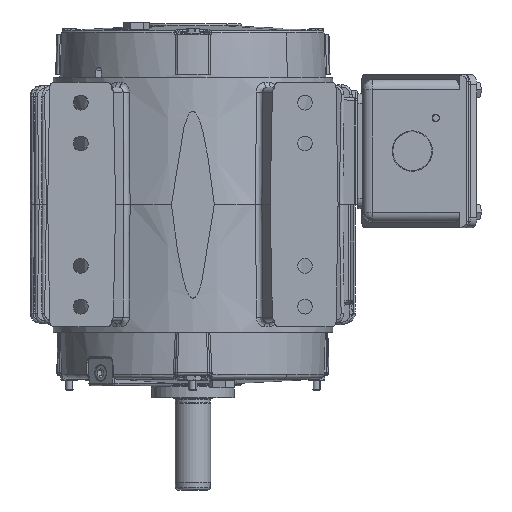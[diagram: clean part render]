
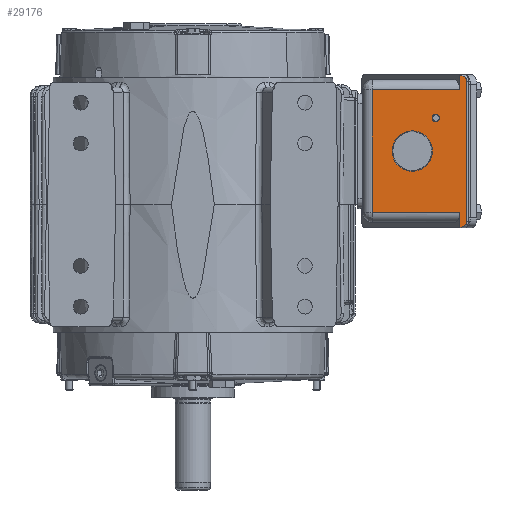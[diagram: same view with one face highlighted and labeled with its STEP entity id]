
A CAD part, front view. The second image highlights one B-rep face of the part: STEP entity #29176.
In plain terms, the highlighted planar face has unit normal (0, -1, 0).
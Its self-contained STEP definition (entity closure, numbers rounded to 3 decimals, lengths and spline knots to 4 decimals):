
#1833 = CARTESIAN_POINT ( 'NONE',  ( 6.709, -1.8539, 6.5513 ) ) ;
#3019 = CARTESIAN_POINT ( 'NONE',  ( 6.055, -1.8539, 9.1213 ) ) ;
#3601 = CARTESIAN_POINT ( 'NONE',  ( 4.4, -1.8539, 6.8113 ) ) ;
#8754 = EDGE_LOOP ( 'NONE', ( #88345, #76033 ) ) ;
#10025 = FACE_BOUND ( 'NONE', #8754, .T. ) ;
#10645 = VERTEX_POINT ( 'NONE', #101679 ) ;
#11913 = VERTEX_POINT ( 'NONE', #77544 ) ;
#13765 = DIRECTION ( 'NONE',  ( 1., 0., 0. ) ) ;
#14995 = VERTEX_POINT ( 'NONE', #38304 ) ;
#16199 = CARTESIAN_POINT ( 'NONE',  ( 6.709, -1.8539, 10.0613 ) ) ;
#17002 = CIRCLE ( 'NONE', #97792, 0.4944 ) ;
#17932 = CARTESIAN_POINT ( 'NONE',  ( 6.5446, -1.8539, 10.1752 ) ) ;
#19464 = ORIENTED_EDGE ( 'NONE', *, *, #32141, .T. ) ;
#21650 = VECTOR ( 'NONE', #85974, 39.3701 ) ;
#24812 = VERTEX_POINT ( 'NONE', #119693 ) ;
#25578 = CARTESIAN_POINT ( 'NONE',  ( 5.865, -1.8539, 9.1213 ) ) ;
#28285 = DIRECTION ( 'NONE',  ( -1., 0., 0. ) ) ;
#29176 = ADVANCED_FACE ( 'NONE', ( #10025, #84182, #41696 ), #65058, .F. ) ;
#30854 = DIRECTION ( 'NONE',  ( -1., 0., 0. ) ) ;
#32141 = EDGE_CURVE ( 'NONE', #24812, #51256, #117028, .T. ) ;
#32382 = EDGE_CURVE ( 'NONE', #107324, #38508, #74562, .T. ) ;
#33331 = EDGE_CURVE ( 'NONE', #51256, #64774, #95227, .T. ) ;
#33343 = DIRECTION ( 'NONE',  ( -1., 0., 0. ) ) ;
#33422 = VECTOR ( 'NONE', #30854, 39.3701 ) ;
#34147 = AXIS2_PLACEMENT_3D ( 'NONE', #73071, #62938, #33343 ) ;
#35850 = DIRECTION ( 'NONE',  ( 0., -1., 0. ) ) ;
#36212 = ORIENTED_EDGE ( 'NONE', *, *, #71486, .T. ) ;
#37072 = CARTESIAN_POINT ( 'NONE',  ( 5.96, -1.8539, 9.1213 ) ) ;
#38304 = CARTESIAN_POINT ( 'NONE',  ( 6.709, -1.8539, 10.0613 ) ) ;
#38508 = VERTEX_POINT ( 'NONE', #58116 ) ;
#39734 = CARTESIAN_POINT ( 'NONE',  ( 6.5446, -1.8539, 6.4374 ) ) ;
#41000 = DIRECTION ( 'NONE',  ( 0., 0., -1. ) ) ;
#41696 = FACE_OUTER_BOUND ( 'NONE', #41827, .T. ) ;
#41827 = EDGE_LOOP ( 'NONE', ( #106650, #66359, #19464, #55110, #52414, #36212, #49120, #100708 ) ) ;
#44102 = CARTESIAN_POINT ( 'NONE',  ( 6.5446, -1.8539, 6.4374 ) ) ;
#44269 = DIRECTION ( 'NONE',  ( 0., -1., 0. ) ) ;
#47145 = EDGE_CURVE ( 'NONE', #53506, #80600, #81697, .T. ) ;
#47650 = DIRECTION ( 'NONE',  ( 0., 0., 1. ) ) ;
#49120 = ORIENTED_EDGE ( 'NONE', *, *, #60382, .T. ) ;
#49808 = EDGE_CURVE ( 'NONE', #10645, #38508, #101800, .T. ) ;
#51256 = VERTEX_POINT ( 'NONE', #44102 ) ;
#52414 = ORIENTED_EDGE ( 'NONE', *, *, #106313, .T. ) ;
#52930 = AXIS2_PLACEMENT_3D ( 'NONE', #94967, #116577, #85310 ) ;
#53506 = VERTEX_POINT ( 'NONE', #3019 ) ;
#55110 = ORIENTED_EDGE ( 'NONE', *, *, #33331, .T. ) ;
#55578 = CARTESIAN_POINT ( 'NONE',  ( 6.5446, -1.8539, 6.5513 ) ) ;
#58050 = CARTESIAN_POINT ( 'NONE',  ( 6.709, -1.8539, 10.1149 ) ) ;
#58116 = CARTESIAN_POINT ( 'NONE',  ( 4.4, -1.8539, 9.8113 ) ) ;
#59573 = CARTESIAN_POINT ( 'NONE',  ( 6.709, -1.8539, 6.4977 ) ) ;
#60382 = EDGE_CURVE ( 'NONE', #122086, #107324, #120090, .T. ) ;
#60850 = CARTESIAN_POINT ( 'NONE',  ( 6.5446, -1.8539, 6.5513 ) ) ;
#61790 =( BOUNDED_CURVE ( )  B_SPLINE_CURVE ( 3, ( #16199, #58050, #128193, #17932 ),
 .UNSPECIFIED., .F., .F. ) 
 B_SPLINE_CURVE_WITH_KNOTS ( ( 4, 4 ),
 ( 0., 1.2505 ),
 .UNSPECIFIED. ) 
 CURVE ( )  GEOMETRIC_REPRESENTATION_ITEM ( )  RATIONAL_B_SPLINE_CURVE ( ( 1., 0.874, 0.874, 1. ) ) 
 REPRESENTATION_ITEM ( '' )  );
#62938 = DIRECTION ( 'NONE',  ( 0., -1., 0. ) ) ;
#64774 = VERTEX_POINT ( 'NONE', #1833 ) ;
#65058 = PLANE ( 'NONE',  #52930 ) ;
#66359 = ORIENTED_EDGE ( 'NONE', *, *, #102591, .T. ) ;
#66367 = DIRECTION ( 'NONE',  ( -1., 0., 0. ) ) ;
#66687 = CARTESIAN_POINT ( 'NONE',  ( 4.4, -1.8539, 6.5613 ) ) ;
#69092 = CARTESIAN_POINT ( 'NONE',  ( 6.5446, -1.8539, 9.8113 ) ) ;
#69906 = EDGE_CURVE ( 'NONE', #110898, #11913, #17002, .T. ) ;
#71486 = EDGE_CURVE ( 'NONE', #14995, #122086, #61790, .T. ) ;
#73071 = CARTESIAN_POINT ( 'NONE',  ( 5.96, -1.8539, 9.1213 ) ) ;
#74562 = LINE ( 'NONE', #80167, #33422 ) ;
#76033 = ORIENTED_EDGE ( 'NONE', *, *, #47145, .F. ) ;
#77544 = CARTESIAN_POINT ( 'NONE',  ( 4.8856, -1.8539, 8.3113 ) ) ;
#78003 = DIRECTION ( 'NONE',  ( 0., 0., -1. ) ) ;
#79805 = CARTESIAN_POINT ( 'NONE',  ( 6.709, -1.8539, 6.5513 ) ) ;
#80167 = CARTESIAN_POINT ( 'NONE',  ( 4.4, -1.8539, 9.8113 ) ) ;
#80600 = VERTEX_POINT ( 'NONE', #25578 ) ;
#81697 = CIRCLE ( 'NONE', #34147, 0.095 ) ;
#82241 = VECTOR ( 'NONE', #41000, 39.3701 ) ;
#82788 = CARTESIAN_POINT ( 'NONE',  ( 6.5446, -1.8539, 10.1752 ) ) ;
#83871 = VECTOR ( 'NONE', #78003, 39.3701 ) ;
#84182 = FACE_BOUND ( 'NONE', #92071, .T. ) ;
#85310 = DIRECTION ( 'NONE',  ( 1., 0., 0. ) ) ;
#85974 = DIRECTION ( 'NONE',  ( 0., 0., 1. ) ) ;
#88345 = ORIENTED_EDGE ( 'NONE', *, *, #126941, .F. ) ;
#92071 = EDGE_LOOP ( 'NONE', ( #127438, #117753 ) ) ;
#93215 = AXIS2_PLACEMENT_3D ( 'NONE', #37072, #108084, #28285 ) ;
#94508 = CARTESIAN_POINT ( 'NONE',  ( 5.38, -1.8539, 8.3113 ) ) ;
#94710 = EDGE_CURVE ( 'NONE', #11913, #110898, #98525, .T. ) ;
#94967 = CARTESIAN_POINT ( 'NONE',  ( 4.4, -1.8539, 6.5613 ) ) ;
#95227 =( BOUNDED_CURVE ( )  B_SPLINE_CURVE ( 3, ( #39734, #121295, #59573, #79805 ),
 .UNSPECIFIED., .F., .F. ) 
 B_SPLINE_CURVE_WITH_KNOTS ( ( 4, 4 ),
 ( 5.0327, 6.2832 ),
 .UNSPECIFIED. ) 
 CURVE ( )  GEOMETRIC_REPRESENTATION_ITEM ( )  RATIONAL_B_SPLINE_CURVE ( ( 1., 0.874, 0.874, 1. ) ) 
 REPRESENTATION_ITEM ( '' )  );
#97792 = AXIS2_PLACEMENT_3D ( 'NONE', #125436, #35850, #66367 ) ;
#98421 = DIRECTION ( 'NONE',  ( -1., 0., 0. ) ) ;
#98525 = CIRCLE ( 'NONE', #114055, 0.4944 ) ;
#100708 = ORIENTED_EDGE ( 'NONE', *, *, #32382, .T. ) ;
#101679 = CARTESIAN_POINT ( 'NONE',  ( 4.4, -1.8539, 6.8113 ) ) ;
#101800 = LINE ( 'NONE', #66687, #123856 ) ;
#102591 = EDGE_CURVE ( 'NONE', #10645, #24812, #128446, .T. ) ;
#106313 = EDGE_CURVE ( 'NONE', #64774, #14995, #128976, .T. ) ;
#106650 = ORIENTED_EDGE ( 'NONE', *, *, #49808, .F. ) ;
#107101 = CARTESIAN_POINT ( 'NONE',  ( 6.709, -1.8539, 10.0613 ) ) ;
#107324 = VERTEX_POINT ( 'NONE', #69092 ) ;
#108084 = DIRECTION ( 'NONE',  ( 0., -1., 0. ) ) ;
#110898 = VERTEX_POINT ( 'NONE', #126321 ) ;
#114055 = AXIS2_PLACEMENT_3D ( 'NONE', #94508, #44269, #98421 ) ;
#114080 = CIRCLE ( 'NONE', #93215, 0.095 ) ;
#114221 = VECTOR ( 'NONE', #13765, 39.3701 ) ;
#116577 = DIRECTION ( 'NONE',  ( 0., 1., 0. ) ) ;
#117028 = LINE ( 'NONE', #55578, #83871 ) ;
#117753 = ORIENTED_EDGE ( 'NONE', *, *, #69906, .F. ) ;
#119693 = CARTESIAN_POINT ( 'NONE',  ( 6.5446, -1.8539, 6.8113 ) ) ;
#120090 = LINE ( 'NONE', #60850, #82241 ) ;
#121295 = CARTESIAN_POINT ( 'NONE',  ( 6.6463, -1.8539, 6.4543 ) ) ;
#122086 = VERTEX_POINT ( 'NONE', #82788 ) ;
#123856 = VECTOR ( 'NONE', #47650, 39.3701 ) ;
#125436 = CARTESIAN_POINT ( 'NONE',  ( 5.38, -1.8539, 8.3113 ) ) ;
#126321 = CARTESIAN_POINT ( 'NONE',  ( 5.8744, -1.8539, 8.3113 ) ) ;
#126941 = EDGE_CURVE ( 'NONE', #80600, #53506, #114080, .T. ) ;
#127438 = ORIENTED_EDGE ( 'NONE', *, *, #94710, .F. ) ;
#128193 = CARTESIAN_POINT ( 'NONE',  ( 6.6463, -1.8539, 10.1583 ) ) ;
#128446 = LINE ( 'NONE', #3601, #114221 ) ;
#128976 = LINE ( 'NONE', #107101, #21650 ) ;
